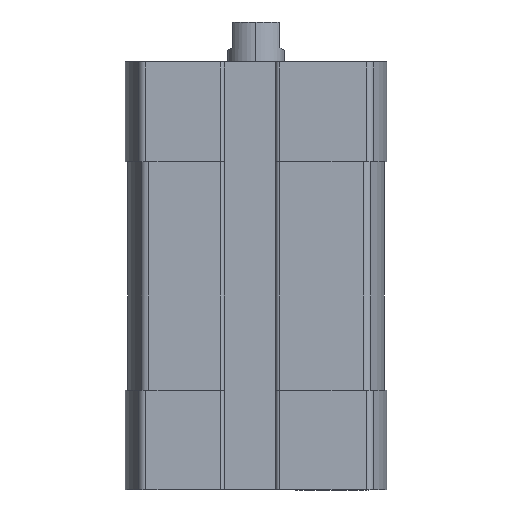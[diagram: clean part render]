
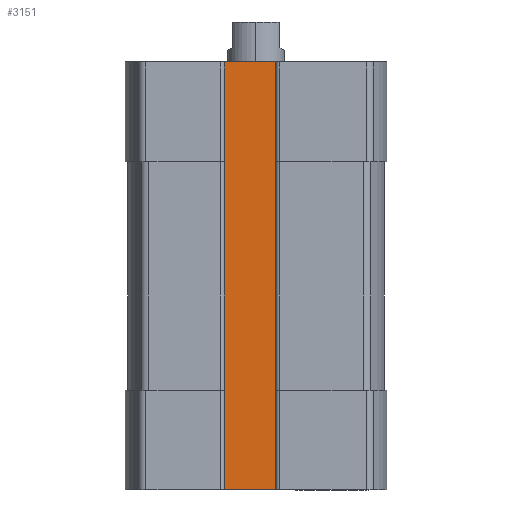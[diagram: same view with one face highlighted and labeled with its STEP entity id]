
A CAD part, left-side view. The second image highlights one B-rep face of the part: STEP entity #3151.
In plain terms, the highlighted planar face has unit normal (-1, 0, 0).
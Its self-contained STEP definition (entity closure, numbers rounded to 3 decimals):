
#676 = CARTESIAN_POINT ( 'NONE',  ( -8.3, -2.5, 0. ) ) ;
#700 = VERTEX_POINT ( 'NONE', #10564 ) ;
#784 = PLANE ( 'NONE',  #8846 ) ;
#877 = EDGE_CURVE ( 'NONE', #3334, #7052, #6785, .T. ) ;
#1053 = VERTEX_POINT ( 'NONE', #9184 ) ;
#1380 = LINE ( 'NONE', #3140, #5566 ) ;
#1526 = ORIENTED_EDGE ( 'NONE', *, *, #4478, .T. ) ;
#1687 = DIRECTION ( 'NONE',  ( -1., 0., 0. ) ) ;
#2012 = EDGE_LOOP ( 'NONE', ( #6881, #10118, #6833, #1526 ) ) ;
#2062 = VECTOR ( 'NONE', #6808, 1000. ) ;
#2143 = LINE ( 'NONE', #9617, #8992 ) ;
#2514 = DIRECTION ( 'NONE',  ( 0., -1., 0. ) ) ;
#3130 = FACE_OUTER_BOUND ( 'NONE', #2012, .T. ) ;
#3140 = CARTESIAN_POINT ( 'NONE',  ( -8.3, -2.4, -45. ) ) ;
#3151 = ADVANCED_FACE ( 'NONE', ( #3130 ), #784, .T. ) ;
#3207 = LINE ( 'NONE', #9674, #5865 ) ;
#3334 = VERTEX_POINT ( 'NONE', #8260 ) ;
#3436 = DIRECTION ( 'NONE',  ( 0., 0., -1. ) ) ;
#4478 = EDGE_CURVE ( 'NONE', #3334, #1053, #3207, .T. ) ;
#5453 = EDGE_CURVE ( 'NONE', #700, #7052, #1380, .T. ) ;
#5566 = VECTOR ( 'NONE', #9387, 1000. ) ;
#5865 = VECTOR ( 'NONE', #3436, 1000. ) ;
#6785 = LINE ( 'NONE', #676, #2062 ) ;
#6808 = DIRECTION ( 'NONE',  ( 0., -1., 0. ) ) ;
#6833 = ORIENTED_EDGE ( 'NONE', *, *, #877, .F. ) ;
#6881 = ORIENTED_EDGE ( 'NONE', *, *, #10510, .T. ) ;
#7052 = VERTEX_POINT ( 'NONE', #8881 ) ;
#7908 = DIRECTION ( 'NONE',  ( 0., 0., 1. ) ) ;
#8260 = CARTESIAN_POINT ( 'NONE',  ( -8.3, 3.6, 0. ) ) ;
#8846 = AXIS2_PLACEMENT_3D ( 'NONE', #10578, #1687, #7908 ) ;
#8881 = CARTESIAN_POINT ( 'NONE',  ( -8.3, -2.4, 0. ) ) ;
#8992 = VECTOR ( 'NONE', #2514, 1000. ) ;
#9184 = CARTESIAN_POINT ( 'NONE',  ( -8.3, 3.6, -45. ) ) ;
#9387 = DIRECTION ( 'NONE',  ( 0., 0., 1. ) ) ;
#9617 = CARTESIAN_POINT ( 'NONE',  ( -8.3, -2.5, -45. ) ) ;
#9674 = CARTESIAN_POINT ( 'NONE',  ( -8.3, 3.6, -45. ) ) ;
#10118 = ORIENTED_EDGE ( 'NONE', *, *, #5453, .T. ) ;
#10510 = EDGE_CURVE ( 'NONE', #1053, #700, #2143, .T. ) ;
#10564 = CARTESIAN_POINT ( 'NONE',  ( -8.3, -2.4, -45. ) ) ;
#10578 = CARTESIAN_POINT ( 'NONE',  ( -8.3, 3.6, -45. ) ) ;
